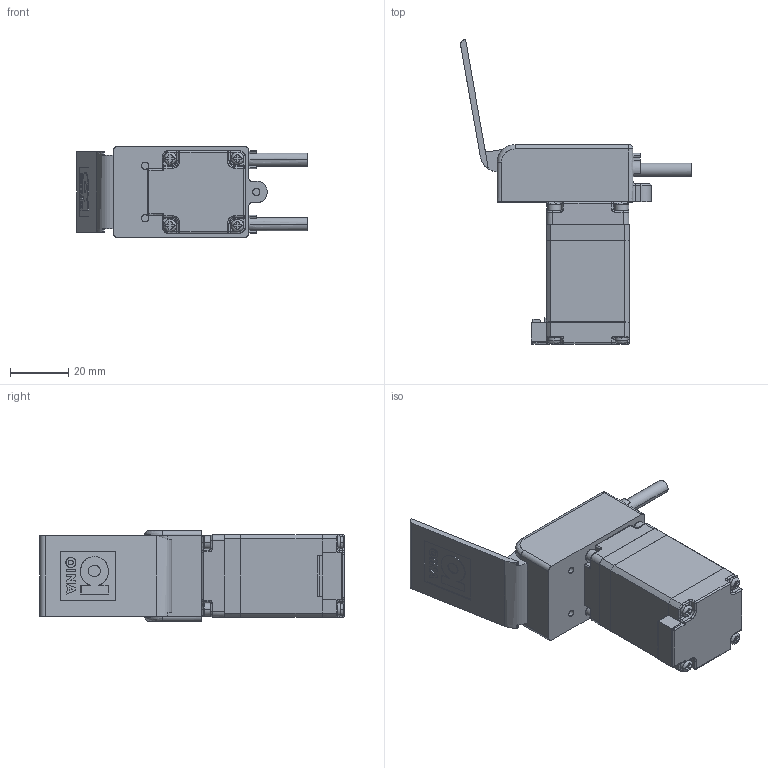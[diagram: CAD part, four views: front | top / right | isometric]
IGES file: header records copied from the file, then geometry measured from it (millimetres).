
Start section: SolidWorks IGES file using analytic representation for surfaces
Global section: file name: Q:\2016\03 Nautilus\41 Files Shell Creation\01 Workfiles\Oina ETL200 use only with SW2017\NA geschlossen\Homepagefiles\open\ETL200-18-open.IGS; native system: SolidWorks 2017; preprocessor: SolidWorks 2017; author: hxs2830; date: 200615.135932; units: millimetre
Bounding box: 78.99 x 104.21 x 31 mm (x, y, z)
Surface area: 16405.5 mm2 (no closed solid volume)
Topology: 0 solids, 0 shells, 766 faces, 5134 edges, 5114 vertices
Faces by surface type: bspline 583, revolution 183
